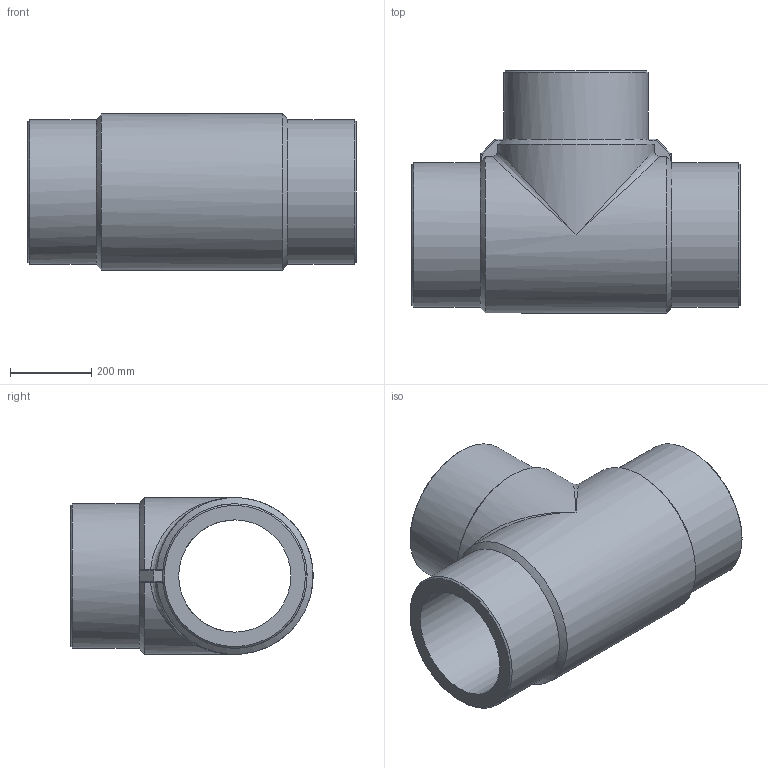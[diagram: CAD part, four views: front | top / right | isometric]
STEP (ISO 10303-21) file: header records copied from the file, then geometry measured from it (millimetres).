
FILE_DESCRIPTION(/* description */ ('Unknown'),/* implementation_level */ '2;1');
FILE_NAME(/* name */ 'TP355G',/* time_stamp */ '2022-06-06T17:00:23+02:00',/* author */ ('Unknown'),/* organization */ ('Unknown'),/* preprocessor_version */ 'ST-DEVELOPER v18.102',/* originating_system */ 'Solid Edge',/* authorisation */ 'Unknown');
FILE_SCHEMA (('AUTOMOTIVE_DESIGN {1 0 10303 214 3 1 1}'));
Length unit declared in the file: millimetre
Products named in the file (1): TP355G
Bounding box: 806 x 594.93 x 385 mm (x, y, z)
Volume: 47519895.5 mm3; surface area: 2147507.2 mm2
Topology: 1 solids, 1 shells, 57 faces, 150 edges, 82 vertices
Faces by surface type: cylinder 24, plane 13, cone 8, sphere 8, bspline 4
Full cylindrical faces by diameter (mm): 275.6 x2, 355 x3
Entity records: 1732 total; most frequent: CARTESIAN_POINT 495, DIRECTION 256, ORIENTED_EDGE 238, EDGE_CURVE 119, AXIS2_PLACEMENT_3D 108, VERTEX_POINT 75, EDGE_LOOP 70, FACE_BOUND 70
